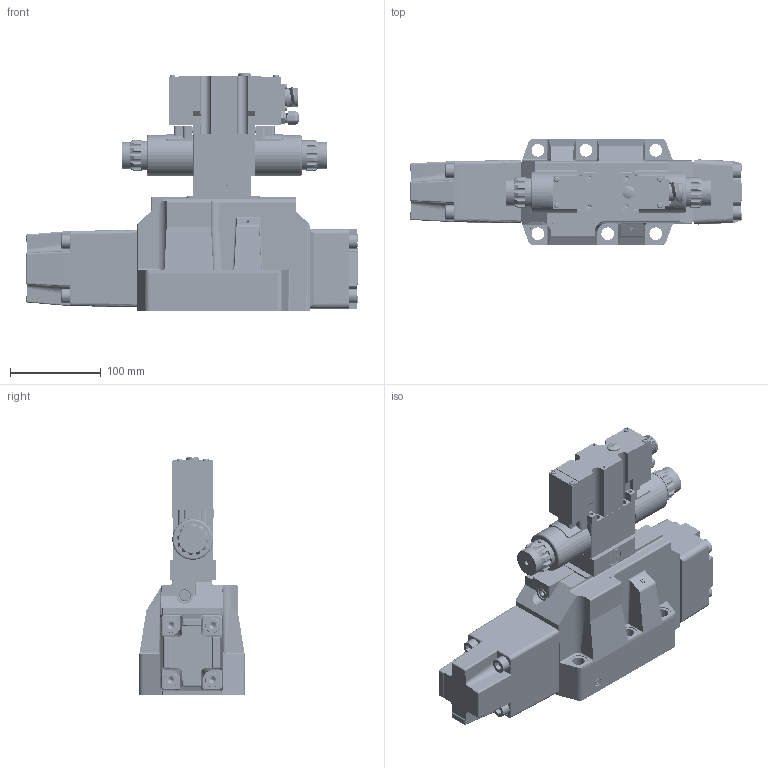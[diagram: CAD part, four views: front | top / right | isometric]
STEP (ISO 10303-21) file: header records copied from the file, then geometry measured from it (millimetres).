
FILE_DESCRIPTION(/* description */ (''),/* implementation_level */ '2;1');
FILE_NAME(/* name */ '4WRZE25.stp',/* time_stamp */ '2024-03-04T11:11:04+08:00',/* author */ (''),/* organization */ (''),/* preprocessor_version */ 'ST-DEVELOPER v16.7',/* originating_system */ 'SIEMENS PLM Software NX 12.0',/* authorisation */ '');
FILE_SCHEMA (('AUTOMOTIVE_DESIGN { 1 0 10303 214 3 1 1 1 }'));
Products named in the file (1): 4WRZE25
Bounding box: 366 x 117 x 263.43 mm (x, y, z)
Volume: 1126152.7 mm3; surface area: 630210.6 mm2
Topology: 80 solids, 86 shells, 3466 faces, 8766 edges, 5559 vertices
Faces by surface type: cylinder 1297, plane 1294, cone 316, bspline 258, torus 137, extrusion 86, revolution 49, sphere 29
Full cylindrical faces by diameter (mm): 1.6 x7, 1.8 x4, 2 x6, 2.5 x21, 3 x10, 3.2 x60, 3.6 x2, 4 x6, 4.2 x30, 4.5 x6, 5 x14, 5.2 x4, 5.3 x4, 5.5 x7, 5.6 x8, 6 x6, 6.2 x12, 6.5 x3, 6.917 x20, 7 x17, 7.8 x1, 8 x8, 8.076 x2, 8.1 x2, 8.2 x1, 8.5 x96, 8.6 x3, 8.7 x2, 9 x4, 9.2 x4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
Entity records: 218414 total; most frequent: CARTESIAN_POINT 143360, ORIENTED_EDGE 13790, DIRECTION 13161, EDGE_CURVE 6895, AXIS2_PLACEMENT_3D 5155, VERTEX_POINT 4766, EDGE_LOOP 4215, ADVANCED_FACE 3191
